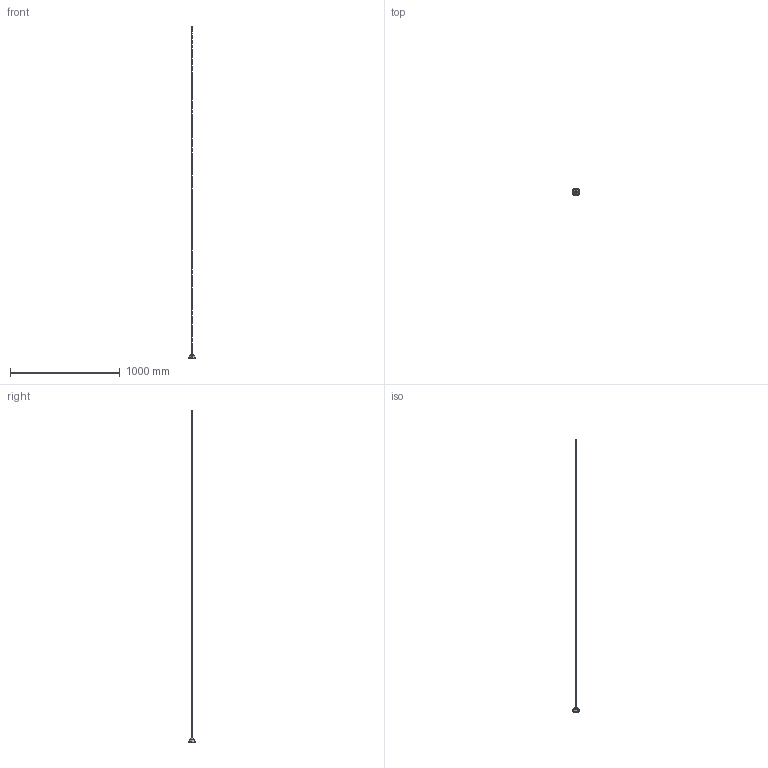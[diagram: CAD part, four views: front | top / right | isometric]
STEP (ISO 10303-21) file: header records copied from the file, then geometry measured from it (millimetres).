
FILE_DESCRIPTION(/* description */ (''),/* implementation_level */ '2;1');
FILE_NAME(/* name */ 'Rendez-Vous M080__.007',/* time_stamp */ '2025-05-26T14:45:24+02:00',/* author */ (''),/* organization */ (''),/* preprocessor_version */ 'ST-DEVELOPER v16.5',/* originating_system */ '',/* authorisation */ '');
FILE_SCHEMA (('AUTOMOTIVE_DESIGN'));
Length unit declared in the file: millimetre
Products named in the file (1): Document
Bounding box: 69.87 x 70 x 3029.18 mm (x, y, z)
Volume: 37753.6 mm3; surface area: 46556.9 mm2
Topology: 4 solids, 4 shells, 182 faces, 400 edges, 237 vertices
Faces by surface type: bspline 131, plane 51
Entity records: 9276 total; most frequent: CARTESIAN_POINT 6907, ORIENTED_EDGE 800, EDGE_CURVE 400, VERTEX_POINT 237, EDGE_LOOP 197, ADVANCED_FACE 182, FACE_OUTER_BOUND 182, B_SPLINE_CURVE_WITH_KNOTS 169
